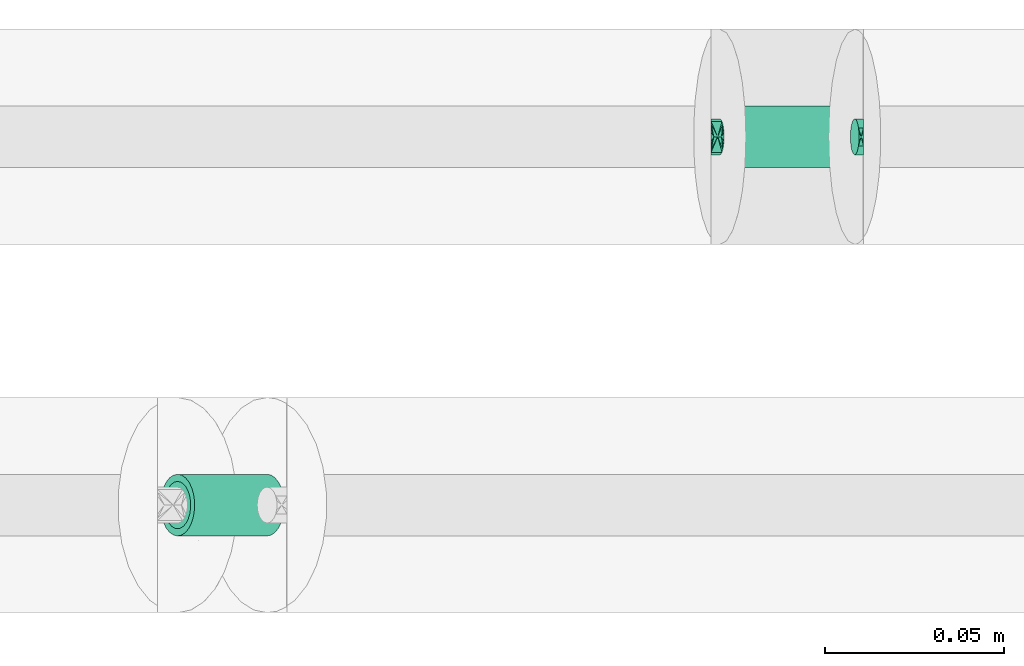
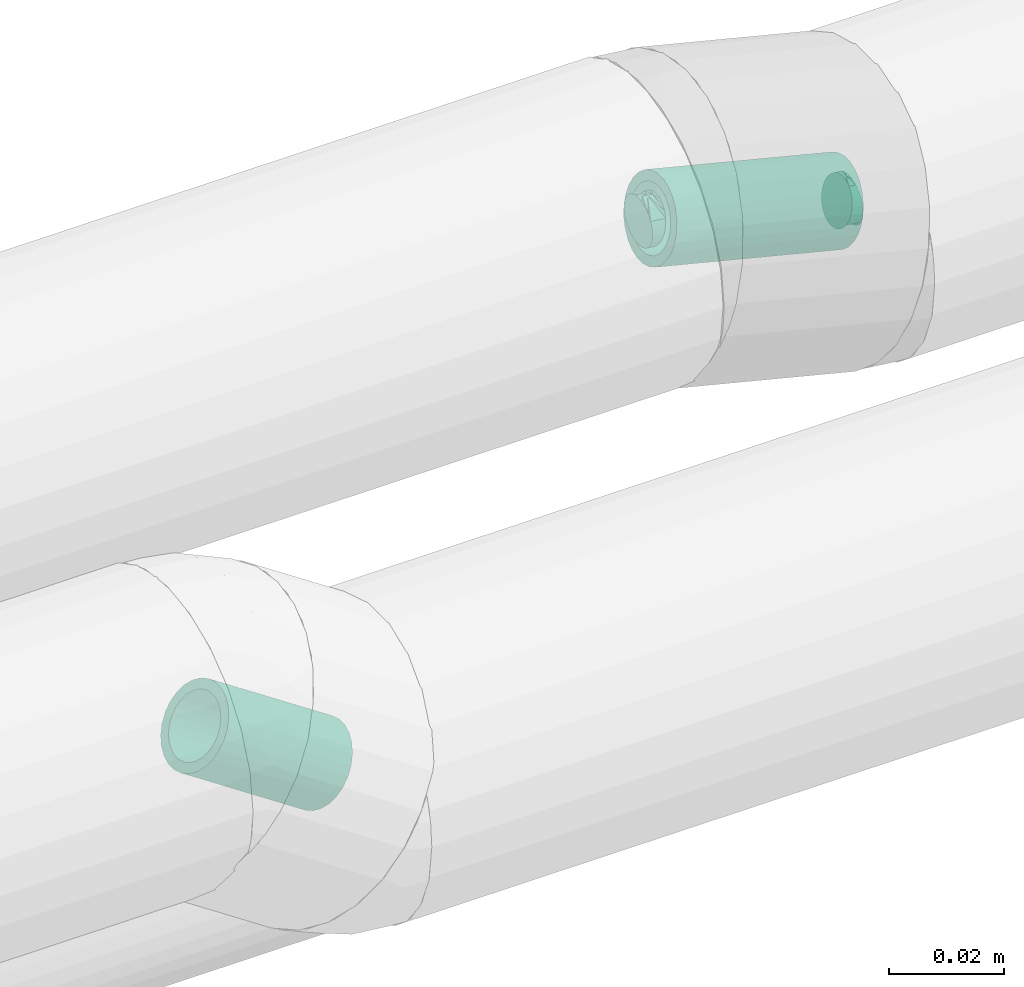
# One storey, part 81 of 156: 2 flow fittings, 2 flow segments.
"""IFC2X3 building model written with IfcOpenShell, lengths in millimetres."""

import ifcopenshell
import ifcopenshell.guid

model = None  # the IFC model being written
_history = None  # IfcOwnerHistory: only IFC2X3 demands one
_inside = {}  # id of a spatial element -> (the spatial element, [elements in it])
_under = {}  # id of a project, library or spatial element -> (it, [spatial elements below it])
_declared = {}  # id of a project -> (the project, [libraries it declares])
_typed = {}  # id of a type object -> (the type object, [elements of that type])
_made_of = {}  # id of a material, layer set ... -> (it, [elements and type objects made of it])


def new_model(schema):
    """Start an empty IFC model of exactly this schema.

    Asked for "IFC4X3", IfcOpenShell would pick the latest addendum, in which some entities
    have other attributes; the version numbers below select the first issue.
    IFC2X3 requires an IfcOwnerHistory on every rooted entity: one is made here for all.
    """
    global model, _history
    if schema == "IFC4X3":
        model = ifcopenshell.file(schema_version=(4, 3, 0, 0))
    else:
        model = ifcopenshell.file(schema=schema)
    _inside.clear()
    _under.clear()
    _declared.clear()
    _typed.clear()
    _made_of.clear()
    _history = None
    if model.schema == "IFC2X3":
        org = make("IfcOrganization", Name="unknown")
        user = make(
            "IfcPersonAndOrganization",
            ThePerson=make("IfcPerson", FamilyName="unknown"),
            TheOrganization=org,
        )
        app = make(
            "IfcApplication",
            ApplicationDeveloper=org,
            Version="unknown",
            ApplicationFullName="unknown",
            ApplicationIdentifier="unknown",
        )
        _history = make(
            "IfcOwnerHistory",
            OwningUser=user,
            OwningApplication=app,
            ChangeAction="ADDED",
            CreationDate=0,
        )
    return model


def make(cls, **values):
    """One entity of the class cls with the attributes given. An attribute that is None is left unset."""
    return model.create_entity(
        cls, **{name: value for name, value in values.items() if value is not None}
    )


def entity(cls, *values):
    """Any entity or typed value of the class cls, its attributes in the order of the schema. None: left unset."""
    e = model.create_entity(cls)
    for i, value in enumerate(values):
        if value is not None:
            e[i] = value
    return e


def rooted(cls, **values):
    """An entity with a GlobalId (a new one), such as an element, a storey or a relation."""
    return make(cls, GlobalId=ifcopenshell.guid.new(), OwnerHistory=_history, **values)


def si_unit(unit_type, name, prefix=None):
    """IfcSIUnit, for example si_unit("LENGTHUNIT", "METRE", prefix="MILLI")."""
    return make("IfcSIUnit", UnitType=unit_type, Prefix=prefix, Name=name)


def converted_unit(unit_type, name, factor, base, dimensions=None, offset=None):
    """IfcConversionBasedUnit, such as the inch: factor (a typed value) times the base unit."""
    return make(
        "IfcConversionBasedUnit"
        if offset is None
        else "IfcConversionBasedUnitWithOffset",
        ConversionOffset=offset,
        Dimensions=None
        if dimensions is None
        else entity("IfcDimensionalExponents", *dimensions),
        UnitType=unit_type,
        Name=name,
        ConversionFactor=make(
            "IfcMeasureWithUnit", ValueComponent=factor, UnitComponent=base
        ),
    )


def derived_unit(unit_type, elements):
    """IfcDerivedUnit: a product of units, each with its exponent."""
    return make(
        "IfcDerivedUnit",
        Elements=[
            make("IfcDerivedUnitElement", Unit=unit, Exponent=power)
            for unit, power in elements
        ],
        UnitType=unit_type,
    )


def assignment(units):
    """IfcUnitAssignment: the units of a project."""
    return None if units is None else make("IfcUnitAssignment", Units=units)


def point(xyz):
    """IfcCartesianPoint."""
    return None if xyz is None else make("IfcCartesianPoint", Coordinates=xyz)


def direction(xyz):
    """IfcDirection."""
    return None if xyz is None else make("IfcDirection", DirectionRatios=xyz)


def frame(location, z_axis=None, x_axis=None):
    """IfcAxis2Placement3D, a coordinate frame: its origin and axes. An axis left out is left unset."""
    return make(
        "IfcAxis2Placement3D",
        Location=point(location),
        Axis=direction(z_axis),
        RefDirection=direction(x_axis),
    )


def frame_2d(location, x_axis=None):
    """IfcAxis2Placement2D, a coordinate frame in the plane: its origin and x axis."""
    return make(
        "IfcAxis2Placement2D", Location=point(location), RefDirection=direction(x_axis)
    )


def origin_with_axes():
    """The frame at (0, 0, 0) with the z axis (0, 0, 1) and the x axis (1, 0, 0) written out."""
    return frame((0.0, 0.0, 0.0), z_axis=(0.0, 0.0, 1.0), x_axis=(1.0, 0.0, 0.0))


def origin_2d_with_axis():
    """The frame at (0, 0) in the plane with the x axis (1, 0) written out."""
    return frame_2d((0.0, 0.0), x_axis=(1.0, 0.0))


def place(relative_to, where):
    """IfcLocalPlacement: puts the frame where relative to a parent placement (None: the world)."""
    return make(
        "IfcLocalPlacement", PlacementRelTo=relative_to, RelativePlacement=where
    )


def context(
    kind, dimensions, precision=None, world=None, true_north=None, identifier=None
):
    """IfcGeometricRepresentationContext, for example the 3D "Model" context."""
    return make(
        "IfcGeometricRepresentationContext",
        ContextIdentifier=identifier,
        ContextType=kind,
        CoordinateSpaceDimension=dimensions,
        Precision=precision,
        WorldCoordinateSystem=world,
        TrueNorth=true_north,
    )


def subcontext(parent, identifier, kind, view, scale=None):
    """IfcGeometricRepresentationSubContext, for example "Body" below "Model"."""
    return make(
        "IfcGeometricRepresentationSubContext",
        ContextIdentifier=identifier,
        ContextType=kind,
        ParentContext=parent,
        TargetScale=scale,
        TargetView=view,
    )


def project(units=None, contexts=None):
    """IfcProject with its units and contexts."""
    return rooted(
        "IfcProject",
        Name="project",
        RepresentationContexts=contexts,
        UnitsInContext=assignment(units),
    )


def spatial(cls, under=None, at=None, **own):
    """A site, building, storey or space (cls), placed at a placement, below another one or the project."""
    s = rooted(cls, ObjectPlacement=at, **own)
    if under is not None:
        _under.setdefault(under.id(), (under, []))[1].append(s)
    return s


def profile(cls, at=None, kind="AREA", **sizes):
    """A parametric profile (cls). Its sizes go by their IFC names, for example OverallWidth=200.0."""
    return make(cls, ProfileType=kind, Position=at, **sizes)


def hollow_circle(**sizes):
    """IfcCircleHollowProfileDef."""
    return profile("IfcCircleHollowProfileDef", **sizes)


def extrude(swept, where, along, depth):
    """IfcExtrudedAreaSolid: the profile swept, set in the frame where, extruded along a direction by depth."""
    return make(
        "IfcExtrudedAreaSolid",
        SweptArea=swept,
        Position=where,
        ExtrudedDirection=direction(along),
        Depth=depth,
    )


def faces_of(points, faces, orient=None, outer=None):
    """IfcFace entities. A face is a list of loops; a loop is a list of indices into points, from 0.

    orient and outer hold one flag for each loop. By default every Orientation is true, the
    first loop of a face is its IfcFaceOuterBound and the others are IfcFaceBound.
    """
    made = []
    for i, loops in enumerate(faces):
        bounds = []
        for j, loop in enumerate(loops):
            is_outer = j == 0 if outer is None else outer[i][j]
            bounds.append(
                make(
                    "IfcFaceOuterBound" if is_outer else "IfcFaceBound",
                    Bound=make("IfcPolyLoop", Polygon=[points[k] for k in loop]),
                    Orientation=True if orient is None else orient[i][j],
                )
            )
        made.append(make("IfcFace", Bounds=bounds))
    return made


def open_shell(faces, orient=None, outer=None):
    """The faces of one IfcOpenShell. surface_model builds it on its shared points."""
    return ("IfcOpenShell", faces, orient, outer)


def surface_model(cls, points, shells):
    """IfcFaceBasedSurfaceModel or IfcShellBasedSurfaceModel (cls): surfaces that need not close."""
    shared = [point(p) for p in points]
    made = [make(c, CfsFaces=faces_of(shared, fs, o, b)) for c, fs, o, b in shells]
    if cls == "IfcFaceBasedSurfaceModel":
        return make(cls, FbsmFaces=made)
    return make(cls, SbsmBoundary=made)


def shape(context_of_items, identifier, shape_type, items):
    """IfcShapeRepresentation: the items that make up one representation, for example the "Body"."""
    return make(
        "IfcShapeRepresentation",
        ContextOfItems=context_of_items,
        RepresentationIdentifier=identifier,
        RepresentationType=shape_type,
        Items=items,
    )


def source(mapping_origin, context_of_items, identifier, shape_type, items):
    """IfcRepresentationMap: a shape defined once, which mapped items show again and again."""
    return make(
        "IfcRepresentationMap",
        MappingOrigin=mapping_origin,
        MappedRepresentation=shape(context_of_items, identifier, shape_type, items),
    )


def transform(
    local_origin,
    x_axis=None,
    y_axis=None,
    z_axis=None,
    scale=None,
    scale2=None,
    scale3=None,
    uniform=True,
):
    """IfcCartesianTransformationOperator3D, or its non-uniform kind. x_axis, y_axis, z_axis: its Axis1, 2, 3."""
    if uniform:
        return make(
            "IfcCartesianTransformationOperator3D",
            Axis1=direction(x_axis),
            Axis2=direction(y_axis),
            LocalOrigin=point(local_origin),
            Scale=scale,
            Axis3=direction(z_axis),
        )
    return make(
        "IfcCartesianTransformationOperator3DnonUniform",
        Axis1=direction(x_axis),
        Axis2=direction(y_axis),
        LocalOrigin=point(local_origin),
        Scale=scale,
        Axis3=direction(z_axis),
        Scale2=scale2,
        Scale3=scale3,
    )


def mapped(mapping_source, mapping_target):
    """IfcMappedItem: shows the shape of a source again, moved by a transform."""
    return make(
        "IfcMappedItem", MappingSource=mapping_source, MappingTarget=mapping_target
    )


def made_of(thing, what):
    """Note that an element or type object is made of a material, layer set ...; save() writes the relation."""
    if what is not None:
        _made_of.setdefault(what.id(), (what, []))[1].append(thing)
    return thing


def type_object(cls, material=None, **own):
    """A type object (cls), such as IfcWallType, which elements share."""
    return made_of(rooted(cls, **own), material)


def element(
    cls,
    number,
    at=None,
    inside=None,
    cuts=None,
    type_object=None,
    material=None,
    context=None,
    identifier="Body",
    shape_type=None,
    held_by="IfcProductDefinitionShape",
    body=None,
    shapes=None,
    **own,
):
    """One element of the class cls, such as IfcWall. Its Tag is "e" and its number.

    at: its placement. inside: the storey or other place that contains it. cuts: it is an
    opening in that element (IfcRelVoidsElement). A single representation is given by context,
    identifier, shape_type and body (its items); several are given by shapes. held_by: the class
    of the entity that holds the representations. save() writes the other relations.
    """
    e = rooted(cls, Tag="e%d" % number, ObjectPlacement=at, **own)
    if body is not None:
        shapes = [shape(context, identifier, shape_type, body)]
    if shapes is not None:
        e.Representation = make(held_by, Representations=shapes)
    if inside is not None:
        _inside.setdefault(inside.id(), (inside, []))[1].append(e)
    if cuts is not None:
        rooted(
            "IfcRelVoidsElement", RelatingBuildingElement=cuts, RelatedOpeningElement=e
        )
    if type_object is not None:
        _typed.setdefault(type_object.id(), (type_object, []))[1].append(e)
    return made_of(e, material)


def aggregate(whole, parts):
    """IfcRelAggregates: a whole, such as a stair, and the parts it consists of."""
    return rooted("IfcRelAggregates", RelatingObject=whole, RelatedObjects=parts)


def save(model, path):
    """Write the relations noted so far, then the file.

    IfcRelAggregates (storeys below a building ...), IfcRelContainedInSpatialStructure (elements
    in a storey), IfcRelDefinesByType, IfcRelAssociatesMaterial and IfcRelDeclares: one each for
    every whole, place, type object, material and project.
    """
    for whole, parts in _under.values():
        aggregate(whole, parts)
    for where, things in _inside.values():
        rooted(
            "IfcRelContainedInSpatialStructure",
            RelatedElements=things,
            RelatingStructure=where,
        )
    for kind, things in _typed.values():
        rooted("IfcRelDefinesByType", RelatedObjects=things, RelatingType=kind)
    for what, things in _made_of.values():
        rooted("IfcRelAssociatesMaterial", RelatedObjects=things, RelatingMaterial=what)
    for by, libraries in _declared.values():
        rooted("IfcRelDeclares", RelatingContext=by, RelatedDefinitions=libraries)
    model.write(path)


model = new_model("IFC2X3")

# Units and contexts
model_context = context("Model", 3, precision=0.01, world=frame((0.0, 4.29681676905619e-09, 0.0)), true_north=direction((4.01073788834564e-13, 1.0)))
plan_context = context("Plan", 3, precision=0.01, world=frame((0.0, 4.29681676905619e-09, 0.0)), true_north=direction((4.01073788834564e-13, 1.0)))
body_context = subcontext(model_context, "Body", "Model", "MODEL_VIEW")
ifc_project = project(units=[converted_unit("PLANEANGLEUNIT", "DEGREE", entity("IfcPositiveLengthMeasure", 0.0174532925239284), si_unit("PLANEANGLEUNIT", "RADIAN"), dimensions=[0, 0, 0, 0, 0, 0, 0]), si_unit("AREAUNIT", "SQUARE_METRE"), si_unit("LENGTHUNIT", "METRE", prefix="MILLI"), si_unit("MASSUNIT", "GRAM", prefix="KILO"), si_unit("POWERUNIT", "WATT"), si_unit("PRESSUREUNIT", "PASCAL", prefix="KILO"), si_unit("FORCEUNIT", "NEWTON", prefix="KILO"), si_unit("ELECTRICVOLTAGEUNIT", "VOLT"), si_unit("ELECTRICCURRENTUNIT", "AMPERE"), si_unit("THERMODYNAMICTEMPERATUREUNIT", "DEGREE_CELSIUS"), si_unit("TIMEUNIT", "SECOND"), si_unit("VOLUMEUNIT", "CUBIC_METRE"), derived_unit("LINEARVELOCITYUNIT", [(si_unit("LENGTHUNIT", "METRE"), 1), (si_unit("TIMEUNIT", "SECOND"), -1)]), derived_unit("VOLUMETRICFLOWRATEUNIT", [(si_unit("VOLUMEUNIT", "CUBIC_METRE"), 1), (si_unit("TIMEUNIT", "SECOND"), -1)]), derived_unit("THERMALTRANSMITTANCEUNIT", [(si_unit("POWERUNIT", "WATT"), 1), (si_unit("THERMODYNAMICTEMPERATUREUNIT", "KELVIN"), -1), (si_unit("AREAUNIT", "SQUARE_METRE"), -1)]), derived_unit("SOUNDPRESSUREUNIT", [(si_unit("PRESSUREUNIT", "PASCAL"), 1)])], contexts=[model_context, plan_context])

# Site, building, storey
site_placement = place(None, frame((0.0, -4.29681676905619e-09, 0.0), z_axis=(0.0, 0.0, 1.0), x_axis=(1.0, 0.0, 0.0)))
site = spatial("IfcSite", under=ifc_project, at=site_placement, CompositionType="ELEMENT")
building_placement = place(site_placement, frame((0.0, 4.29681676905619e-09, 0.0), z_axis=(0.0, 0.0, 1.0), x_axis=(1.0, 0.0, 0.0)))
building = spatial("IfcBuilding", under=site, at=building_placement, Name="mc-building", CompositionType="ELEMENT")
storey_placement = place(building_placement, frame((0.0, 0.0, 205200.0), z_axis=(0.0, 0.0, 1.0), x_axis=(1.0, 0.0, 0.0)))
storey = spatial("IfcBuildingStorey", under=building, at=storey_placement, Name="Nivå D + 1,2 m", CompositionType="ELEMENT", Elevation=205200.0)

# Flow fittings
pipe_fitting_type = type_object("IfcPipeFittingType", Name="magi_pipe_elbow_short_001", PredefinedType="BEND")
shared_shape_1 = source(origin_with_axes(), body_context, "Body", "SurfaceModel", [
    surface_model("IfcShellBasedSurfaceModel", [(-1.23106, 0.0, -5.0), (-1.23106, -3.53553, -3.53553), (-1.23106, 1.2941, -4.82963), (-1.23106, 2.5, -4.33013), (-1.23106, 3.53553, -3.53553), (-1.23106, 4.82963, -1.2941), (-1.23106, 4.33013, -2.5), (-1.23106, -5.0, 0.0), (-1.23106, 4.33013, 2.5), (-1.23106, -2.5, -4.33013), (-1.23106, -1.2941, -4.82963), (-1.23106, -4.82963, -1.2941), (-1.23106, -4.33013, -2.5), (-1.23106, 5.0, 0.0), (-1.23106, 4.82963, 1.2941), (-1.23106, 1.2941, 4.82963), (-1.23106, 2.5, 4.33013), (-1.23106, 3.53553, 3.53553), (-1.23106, -3.53553, 3.53553), (-1.23106, -4.82963, 1.2941), (-1.23106, -4.33013, 2.5), (-1.23106, -2.5, 4.33013), (-1.23106, -1.2941, 4.82963), (-1.23106, 0.0, 5.0), (0.33681, 3.72855, -3.53553), (1.1943, 0.29857, -5.0), (0.88044, 1.55403, -4.82963), (0.58796, 2.72393, -4.33013), (-0.01838, 5.14929, 0.0), (0.14409, 4.49942, -2.5), (2.40698, -4.55214, 0.0), (2.05179, -3.1314, 3.53553), (1.50816, -0.95688, -4.82963), (2.05179, -3.1314, -3.53553), (1.80064, -2.12678, -4.33013), (2.24451, -3.90227, -2.5), (2.36566, -4.38685, -1.2941), (0.02294, 4.984, -1.2941), (0.02294, 4.984, 1.2941), (0.14409, 4.49942, 2.5), (0.33681, 3.72855, 3.53553), (0.58796, 2.72393, 4.33013), (0.88044, 1.55403, 4.82963), (1.50816, -0.95688, 4.82963), (2.24451, -3.90227, 2.5), (2.36566, -4.38685, 1.2941), (1.80064, -2.12678, 4.33013), (1.1943, 0.29857, 5.0), (0.60169, -4.88761, 0.0), (-0.45321, -4.9523, 0.0), (-0.62014, 5.03746, 0.0), (1.64079, -4.69452, 0.0)], [open_shell([[[0, 1, 2]], [[3, 2, 4]], [[5, 6, 4]], [[4, 2, 7]], [[4, 7, 8]], [[9, 1, 10]], [[1, 0, 10]], [[11, 7, 12]], [[1, 12, 7]], [[1, 7, 2]], [[13, 5, 4]], [[8, 14, 13]], [[7, 15, 8]], [[8, 15, 16]], [[17, 8, 16]], [[18, 15, 7]], [[19, 20, 7]], [[7, 20, 18]], [[21, 22, 18]], [[22, 15, 18]], [[15, 22, 23]], [[8, 13, 4]], [[24, 25, 26]], [[24, 26, 27]], [[28, 24, 29]], [[30, 25, 31]], [[24, 31, 25]], [[32, 33, 34]], [[33, 32, 35]], [[35, 30, 36]], [[35, 32, 25]], [[25, 30, 35]], [[28, 29, 37]], [[28, 38, 39]], [[39, 40, 24]], [[40, 41, 42]], [[40, 31, 24]], [[43, 40, 42]], [[30, 44, 45]], [[31, 44, 30]], [[31, 43, 46]], [[31, 40, 43]], [[47, 43, 42]], [[28, 39, 24]], [[48, 21, 18]], [[20, 49, 18]], [[43, 22, 21]], [[23, 42, 15]], [[23, 22, 47]], [[19, 49, 20]], [[40, 17, 16]], [[39, 8, 17]], [[14, 8, 50]], [[50, 13, 14]], [[50, 8, 39]], [[42, 16, 15]], [[19, 7, 49]], [[48, 18, 49]], [[46, 43, 21]], [[46, 48, 31]], [[43, 47, 22]], [[51, 44, 31]], [[48, 51, 31]], [[45, 51, 30]], [[39, 38, 50]], [[28, 50, 38]], [[44, 51, 45]], [[42, 23, 47]], [[17, 40, 39]], [[41, 40, 16]], [[42, 41, 16]], [[21, 48, 46]], [[12, 49, 11]], [[26, 0, 2]], [[25, 10, 0]], [[29, 4, 6]], [[4, 24, 3]], [[2, 3, 26]], [[50, 6, 5]], [[49, 7, 11]], [[12, 1, 49]], [[48, 9, 34]], [[48, 49, 1]], [[48, 1, 9]], [[32, 9, 10]], [[5, 13, 50]], [[50, 28, 37]], [[50, 37, 29]], [[27, 3, 24]], [[26, 3, 27]], [[36, 30, 51]], [[4, 29, 24]], [[26, 25, 0]], [[48, 34, 33]], [[34, 9, 32]], [[35, 36, 51]], [[48, 33, 51]], [[51, 33, 35]], [[10, 25, 32]], [[29, 6, 50]]])]),
])
for number, where, z_axis, x_axis, name in (
    (1, (325767.5, 459031.28638, 4218.32044000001), (0.0, 1.0, 0.0), (-1.0, 0.0, 0.0), "magi_pipe_elbow_short_001"),
    (2, (325727.5, 459031.28638, 4228.32044000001), (0.0, 1.0, 0.0), (1.0, 0.0, 0.0), "magi_pipe_elbow_short_001"),
):
    element("IfcFlowFitting", number, at=place(storey_placement, frame(where, z_axis=z_axis, x_axis=x_axis)), inside=storey, type_object=pipe_fitting_type, Name=name, context=body_context, shape_type="MappedRepresentation", body=[
        mapped(shared_shape_1, transform((0.0, 0.0, 0.0), scale=1.0)),
    ])

# Flow segments
pipe_segment_type = type_object("IfcPipeSegmentType", Name="Stålrør normaltykke", PredefinedType="RIGIDSEGMENT")
shared_shape_2 = source(origin_with_axes(), body_context, "Body", "SweptSolid", [
    extrude(hollow_circle(Radius=8.6, WallThickness=2.0, at=origin_2d_with_axis()), frame((0.0, 0.0, 0.0), z_axis=(1.0, 0.0, 0.0), x_axis=(0.0, 1.0, 0.0)), (0.0, 0.0, 1.0), 30.0),
])
flow_segment_1_placement = place(storey_placement, frame((325577.51925, 458928.61963, 4235.00885000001), z_axis=(0.554700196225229, 0.0, 0.832050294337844), x_axis=(0.832050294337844, 0.0, -0.554700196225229)))
element("IfcFlowSegment", 3, at=flow_segment_1_placement, inside=storey, type_object=pipe_segment_type, Name="Stålrør normaltykke", context=body_context, shape_type="MappedRepresentation", body=[
    mapped(shared_shape_2, transform((0.0, 0.0, 0.0), scale=1.0)),
])
shared_shape_3 = source(origin_with_axes(), body_context, "Body", "SweptSolid", [
    extrude(hollow_circle(Radius=8.6, WallThickness=2.0, at=origin_2d_with_axis()), frame((0.0, 0.0, 0.0), z_axis=(1.0, 0.0, 0.0), x_axis=(0.0, 1.0, 0.0)), (0.0, 0.0, 1.0), 38.8),
])
flow_segment_2_placement = place(storey_placement, frame((325766.3057, 459031.28638, 4218.61902000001), z_axis=(0.242535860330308, 0.0, 0.970142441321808), x_axis=(-0.970142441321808, 0.0, 0.242535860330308)))
element("IfcFlowSegment", 4, at=flow_segment_2_placement, inside=storey, type_object=pipe_segment_type, Name="Stålrør normaltykke", context=body_context, shape_type="MappedRepresentation", body=[
    mapped(shared_shape_3, transform((0.0, 0.0, 0.0), scale=1.0)),
])

save(model, "model.ifc")
